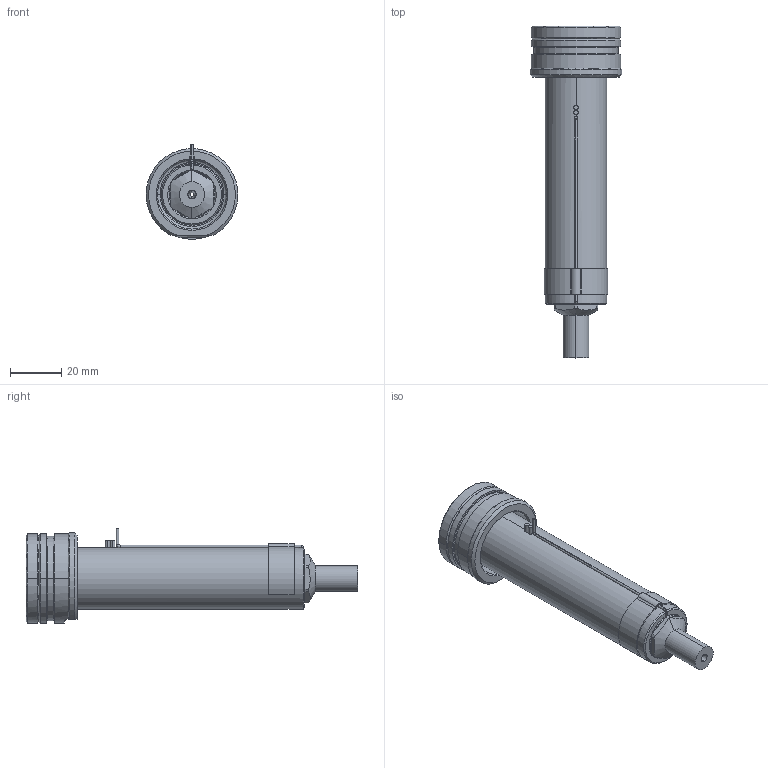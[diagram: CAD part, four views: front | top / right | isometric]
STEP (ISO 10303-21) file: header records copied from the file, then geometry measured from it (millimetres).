
FILE_DESCRIPTION((''),'2;1');
FILE_NAME('EO06_VG-FBE_STD_100_SW','2024-02-19T13:49:14',('sundharh'),(''),'CREO PARAMETRIC BY PTC INC, 2023154','CREO PARAMETRIC BY PTC INC, 2023154','');
FILE_SCHEMA(('CONFIG_CONTROL_DESIGN'));
Length unit declared in the file: millimetre
Products named in the file (1): EO06_VG-FBE_STD_100_SW
Bounding box: 35.93 x 130 x 37 mm (x, y, z)
Volume: 56633.4 mm3; surface area: 17264.5 mm2
Topology: 2 solids, 2 shells, 204 faces, 506 edges, 302 vertices
Faces by surface type: cylinder 76, plane 41, cone 40, torus 29, bspline 16, sphere 2
Entity records: 6980 total; most frequent: CARTESIAN_POINT 2084, DIRECTION 1094, ORIENTED_EDGE 996, EDGE_CURVE 498, AXIS2_PLACEMENT_3D 462, VERTEX_POINT 302, CIRCLE 274, EDGE_LOOP 218
